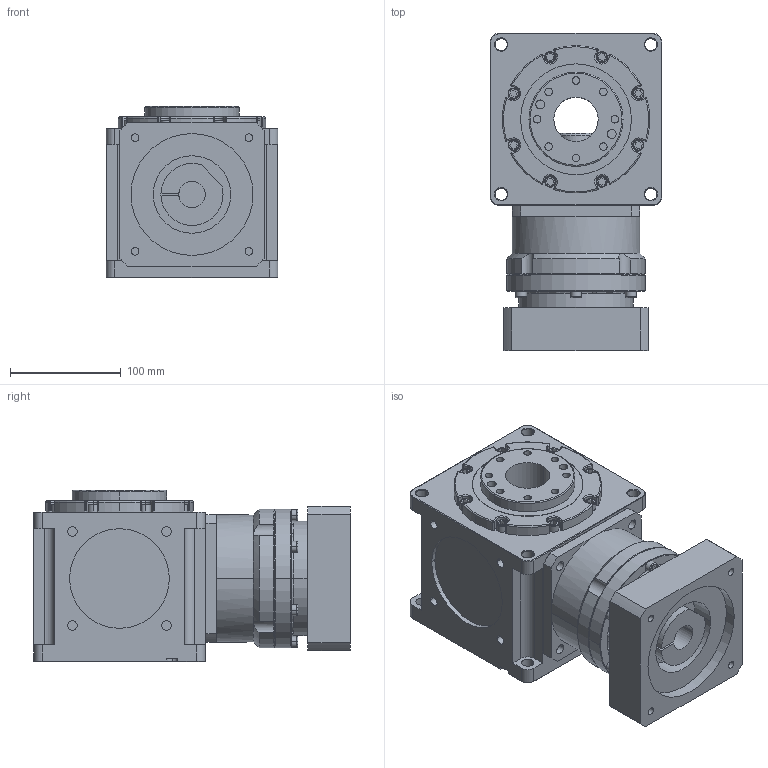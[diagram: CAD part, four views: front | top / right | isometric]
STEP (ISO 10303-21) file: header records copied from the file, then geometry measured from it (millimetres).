
FILE_DESCRIPTION (( 'STEP AP214' ), '1' );
FILE_NAME ('CCT155A-L1(6~20)-RF 24-110-145-M8.STEP', '2025-05-24T05:48:01', ( '微软用户' ), ( '微软中国' ), 'SwSTEP 2.0', 'SolidWorks 2024', '' );
FILE_SCHEMA (( 'AUTOMOTIVE_DESIGN' ));
Length unit declared in the file: millimetre
Products named in the file (3): VRB-115-L1-S2-P1 24-110-145-M8; CCT155A-L1(6~20)-RF 24-110-145-M8; CCW155A-002-FR箱体
Assembly tree (2 placements, depth 2):
  CCT155A-L1(6~20)-RF 24-110-145-M8
    CCW155A-002-FR箱体
    VRB-115-L1-S2-P1 24-110-145-M8
Bounding box: 155 x 286 x 154.5 mm (x, y, z)
Volume: 4560257.6 mm3; surface area: 310135.1 mm2
Topology: 2 solids, 2 shells, 651 faces, 1531 edges, 937 vertices
Faces by surface type: plane 256, cylinder 250, cone 68, torus 61, sphere 16
Entity records: 18974 total; most frequent: DIRECTION 3508, CARTESIAN_POINT 3469, ORIENTED_EDGE 3026, EDGE_CURVE 1513, AXIS2_PLACEMENT_3D 1378, VERTEX_POINT 937, LINE 752, VECTOR 752
